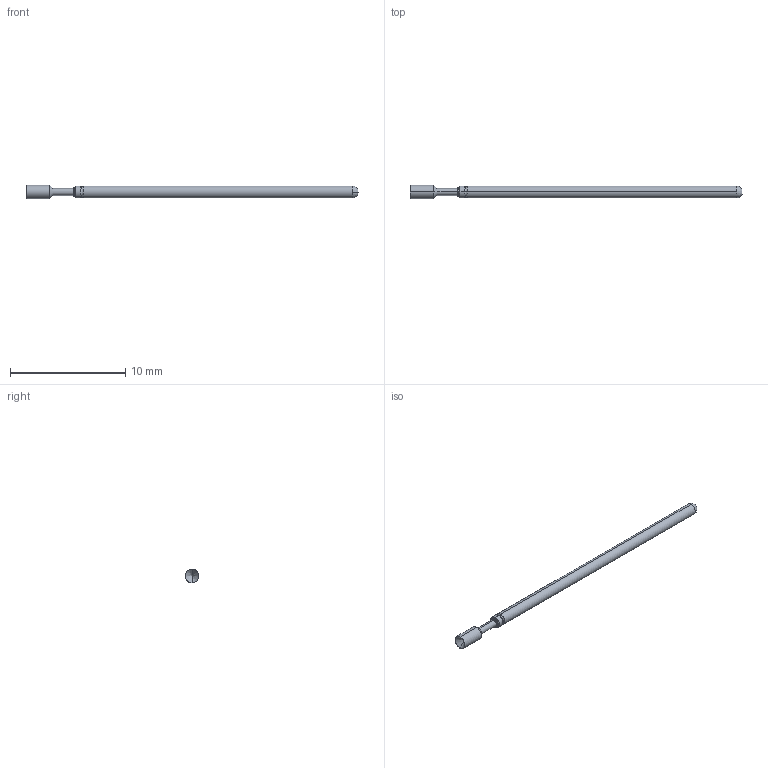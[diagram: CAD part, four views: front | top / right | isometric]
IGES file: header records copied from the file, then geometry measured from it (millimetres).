
Start section: SolidWorks IGES file using analytic representation for surfaces
Global section: file name: Z:\probe solid model mockups\Solidworks models\Parts\LFRE-1A RECD.IGS; native system: SolidWorks 2016; preprocessor: SolidWorks 2016; author: mlee; date: 180927.162310; units: inch
Bounding box: 28.78 x 1.19 x 1.19 mm (x, y, z)
Surface area: 93.1 mm2 (no closed solid volume)
Topology: 0 solids, 0 shells, 24 faces, 140 edges, 138 vertices
Faces by surface type: revolution 18, bspline 6
